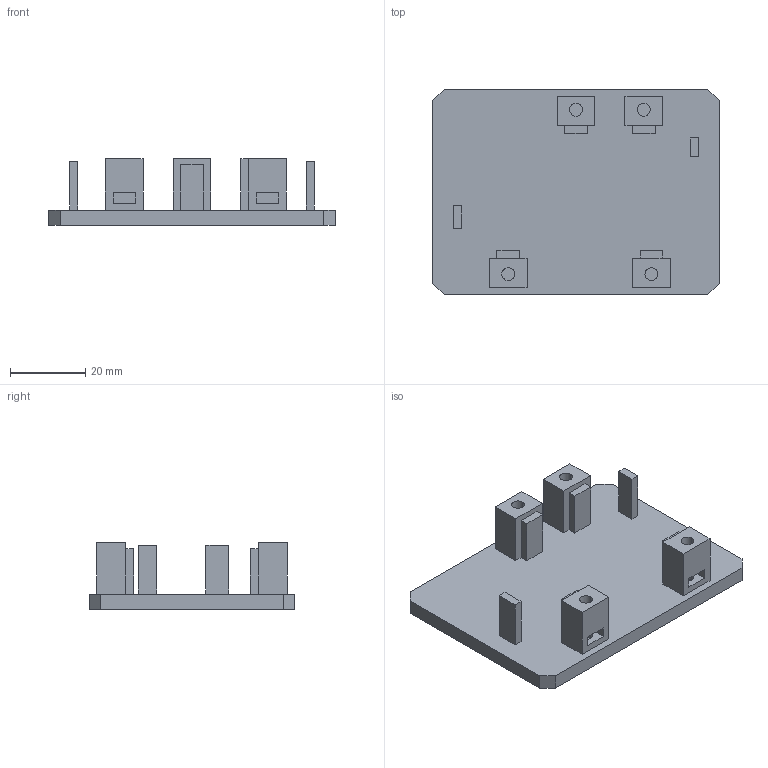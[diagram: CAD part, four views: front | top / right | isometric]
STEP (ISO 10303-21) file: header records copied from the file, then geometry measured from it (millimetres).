
FILE_DESCRIPTION (( 'STEP AP203' ), '1' );
FILE_NAME ('05_receiver_flat_tray.step', '2026-10-15T09:23:39', ( '' ), ( '' ), 'SwSTEP 2.0', 'SolidWorks 2025', '' );
FILE_SCHEMA (( 'CONFIG_CONTROL_DESIGN' ));
Length unit declared in the file: millimetre
Products named in the file (1): 05_receiver_flat_tray
Bounding box: 76 x 54.62 x 17.6 mm (x, y, z)
Volume: 20785.6 mm3; surface area: 12686.7 mm2
Topology: 1 solids, 1 shells, 96 faces, 240 edges, 160 vertices
Faces by surface type: plane 80, cylinder 16
Entity records: 2929 total; most frequent: CARTESIAN_POINT 497, ORIENTED_EDGE 480, DIRECTION 466, EDGE_CURVE 240, LINE 208, VECTOR 208, VERTEX_POINT 160, AXIS2_PLACEMENT_3D 129
